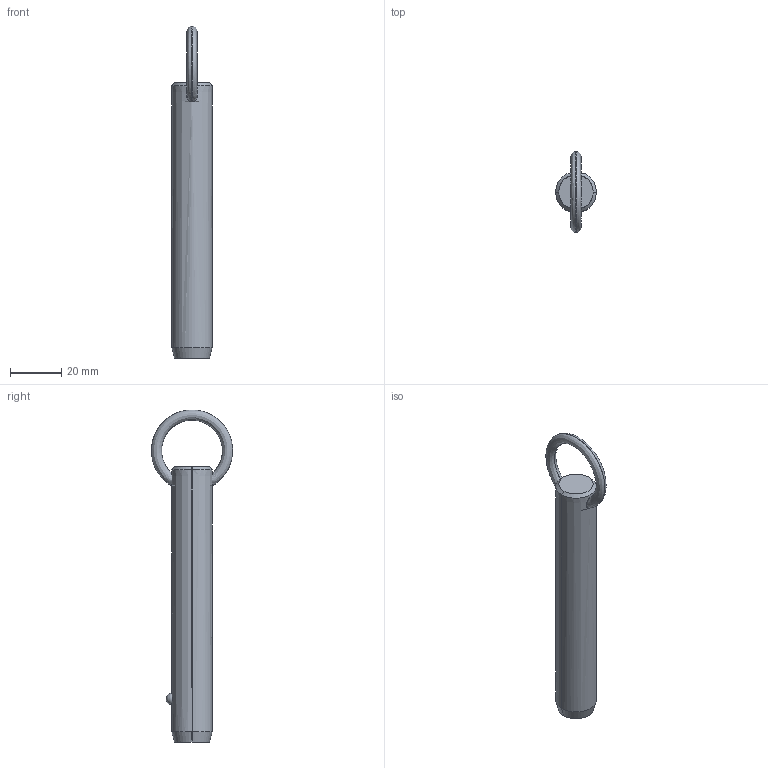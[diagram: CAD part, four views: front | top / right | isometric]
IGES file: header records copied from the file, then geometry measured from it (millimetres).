
Start section: SolidWorks IGES file using analytic representation for surfaces
Global section: file name: C:\Users\liam_\OneDrive\Documents\WORK\Work for WixRoyd\Job Files\J-00019 - Matt Davis CAD Checking\04. CAD Drawings\automotion20190605\P1250.2_v2\P1250.2_v2_20190729_IGES\P1250.062-310.igs; native system: SolidWorks 2017; preprocessor: SolidWorks 2017; author: liam_; date: 190729.233440; units: millimetre
Bounding box: 15.8 x 31.63 x 129.5 mm (x, y, z)
Surface area: 6499.9 mm2 (no closed solid volume)
Topology: 0 solids, 0 shells, 12 faces, 292 edges, 290 vertices
Faces by surface type: revolution 8, bspline 4
